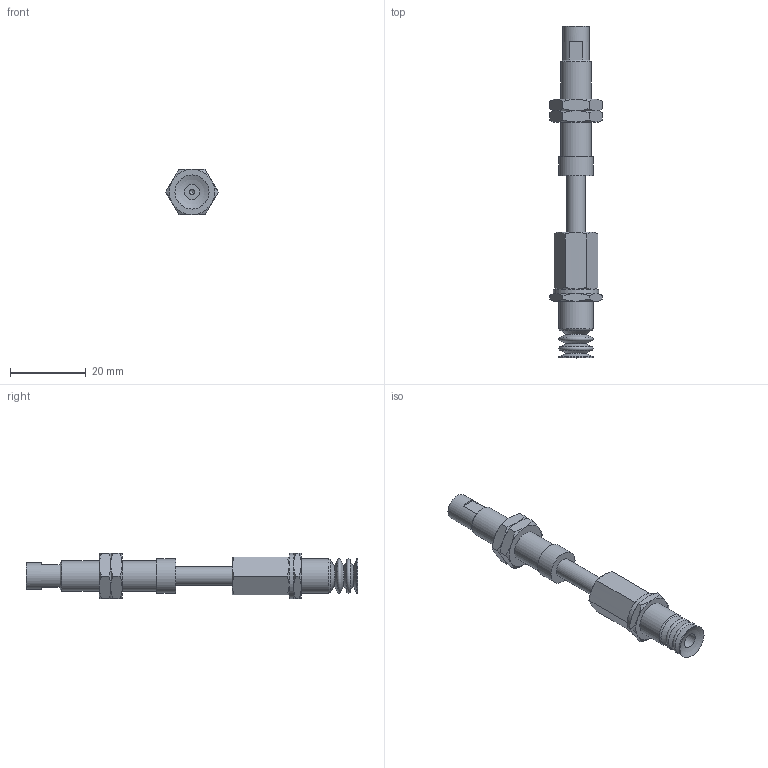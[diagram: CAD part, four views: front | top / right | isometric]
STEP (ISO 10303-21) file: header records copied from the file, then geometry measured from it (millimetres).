
FILE_DESCRIPTION(('STEP AP203'),'1');
FILE_NAME('.stp','2025-08-27T02:11:21',(' '),(' '),'Spatial InterOp 3D',' ',' ');
FILE_SCHEMA(('CONFIG_CONTROL_DESIGN'));
Length unit declared in the file: millimetre
Products named in the file (7): BNABPCTS-10-15-※; ADAPTER; NAPCTS-10-15-MBODY; Adapter_napc-10-T; Nut napc_s-10-15; NAPCTS-10-15-FBODY; BPCG-10-※
Assembly tree (7 placements, depth 2):
  BNABPCTS-10-15-※
    ADAPTER
    NAPCTS-10-15-MBODY
    Adapter_napc-10-T
    Nut napc_s-10-15  x2
    NAPCTS-10-15-FBODY
    BPCG-10-※
Bounding box: 13.86 x 87.7 x 12 mm (x, y, z)
Volume: 4936.6 mm3; surface area: 5325.4 mm2
Topology: 7 solids, 7 shells, 142 faces, 287 edges, 166 vertices
Faces by surface type: cone 64, plane 49, cylinder 19, torus 8, sphere 2
Full cylindrical faces by diameter (mm): 1.25 x1, 4 x1, 4.134 x2, 5 x7, 7 x1, 7.188 x2, 8 x1, 9 x3, 12 x1
Entity records: 3568 total; most frequent: CARTESIAN_POINT 996, DIRECTION 470, ORIENTED_EDGE 386, AXIS2_PLACEMENT_3D 222, EDGE_CURVE 193, EDGE_LOOP 176, FACE_OUTER_BOUND 147, VERTEX_POINT 136
